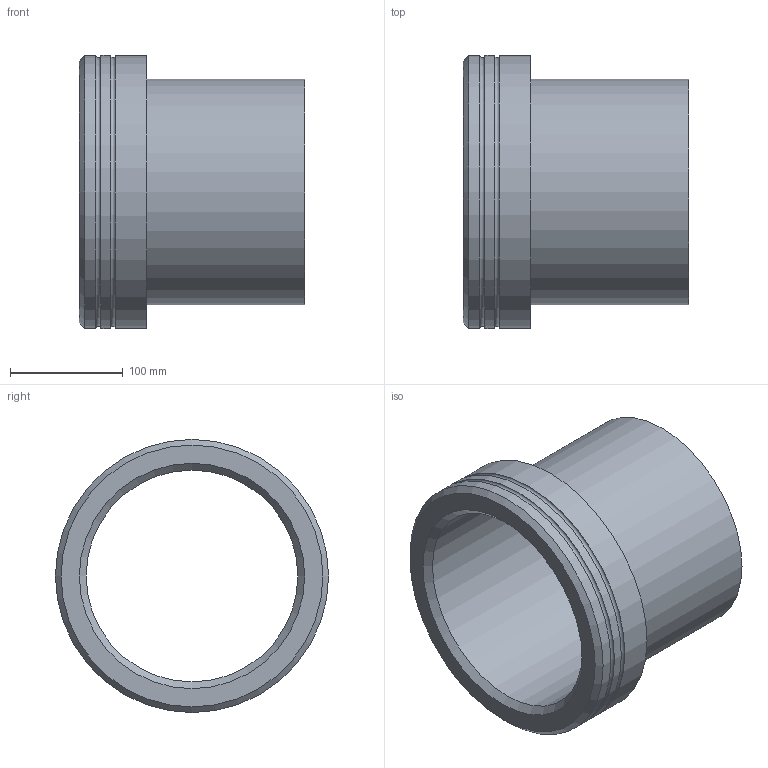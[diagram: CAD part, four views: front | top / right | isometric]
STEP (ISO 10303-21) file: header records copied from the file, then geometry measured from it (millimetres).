
FILE_DESCRIPTION(/* description */ (''),/* implementation_level */ '2;1');
FILE_NAME(/* name */ 'Z:\Geberit\Export\NewStep\370739.stp',/* time_stamp */ '2014-04-02T08:04:30+02:00',/* author */ ('ML'),/* organization */ (''),/* preprocessor_version */ 'ST-DEVELOPER v15.2',/* originating_system */ 'Autodesk Inventor 2014',/* authorisation */ '');
FILE_SCHEMA (('AUTOMOTIVE_DESIGN { 1 0 10303 214 3 1 1 }'));
Length unit declared in the file: millimetre
Products named in the file (1): 370739
Bounding box: 200 x 242 x 242 mm (x, y, z)
Volume: 1598175.8 mm3; surface area: 287563.2 mm2
Topology: 1 solids, 1 shells, 12 faces, 21 edges, 12 vertices
Faces by surface type: cylinder 5, plane 3, cone 2, torus 2
Full cylindrical faces by diameter (mm): 187.6 x1, 200 x1, 242 x3
Entity records: 281 total; most frequent: DIRECTION 50, CARTESIAN_POINT 37, AXIS2_PLACEMENT_3D 25, EDGE_LOOP 24, ORIENTED_EDGE 24, FACE_BOUND 15, STYLED_ITEM 13, CIRCLE 12
